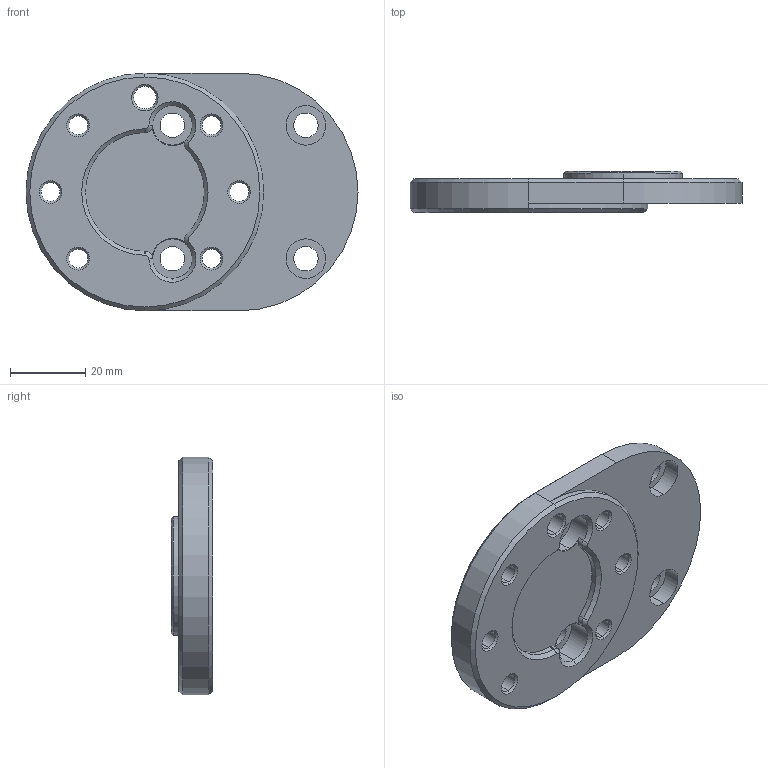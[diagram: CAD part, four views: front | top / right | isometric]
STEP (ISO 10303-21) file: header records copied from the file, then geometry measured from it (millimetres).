
FILE_DESCRIPTION (( 'STEP AP214' ), '1' );
FILE_NAME ('101773.step', '2019-03-29T12:44:11', ( '' ), ( '' ), 'SwSTEP 2.0', 'SolidWorks 2018', '' );
FILE_SCHEMA (( 'AUTOMOTIVE_DESIGN' ));
Length unit declared in the file: millimetre
Products named in the file (1): 101773
Bounding box: 88 x 11 x 63 mm (x, y, z)
Volume: 33807.1 mm3; surface area: 12977.9 mm2
Topology: 1 solids, 1 shells, 111 faces, 263 edges, 156 vertices
Faces by surface type: cone 51, cylinder 47, plane 13
Entity records: 3401 total; most frequent: DIRECTION 625, CARTESIAN_POINT 547, ORIENTED_EDGE 518, EDGE_CURVE 259, AXIS2_PLACEMENT_3D 258, VERTEX_POINT 156, CIRCLE 146, EDGE_LOOP 139
